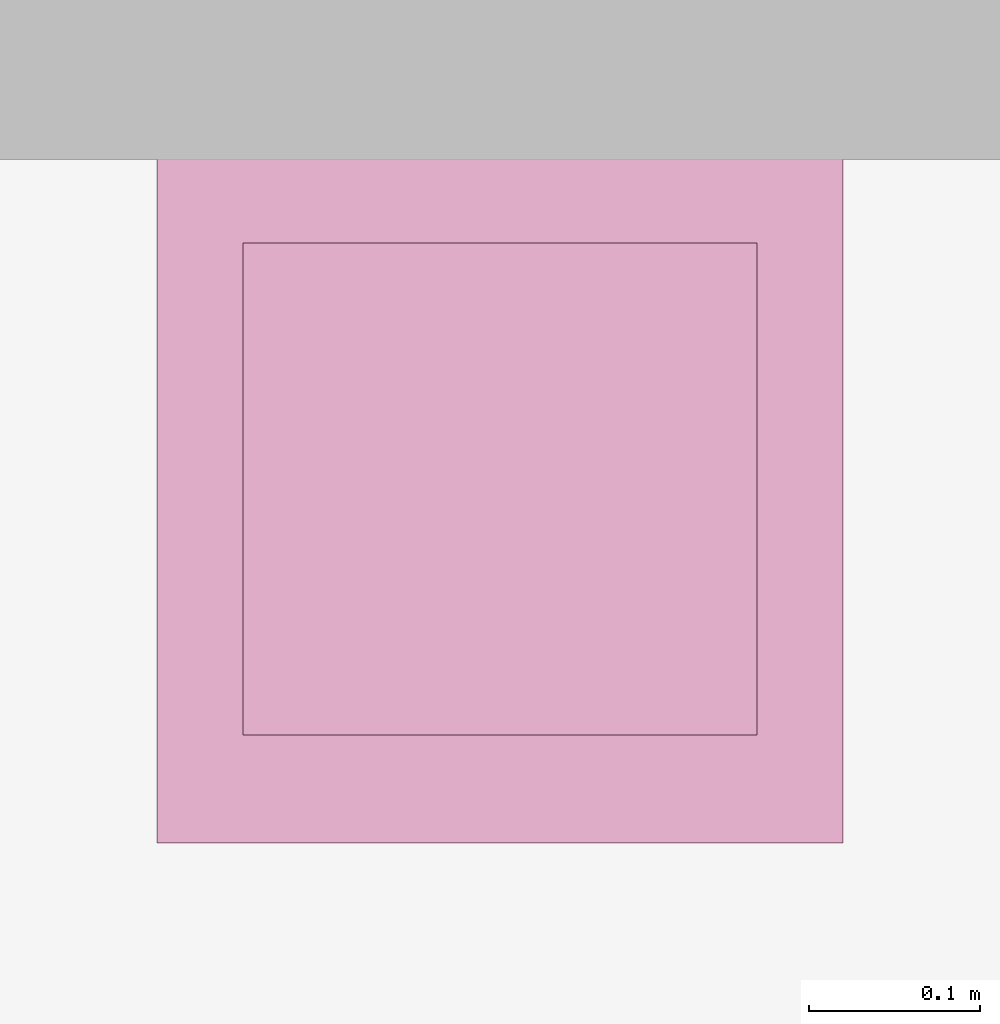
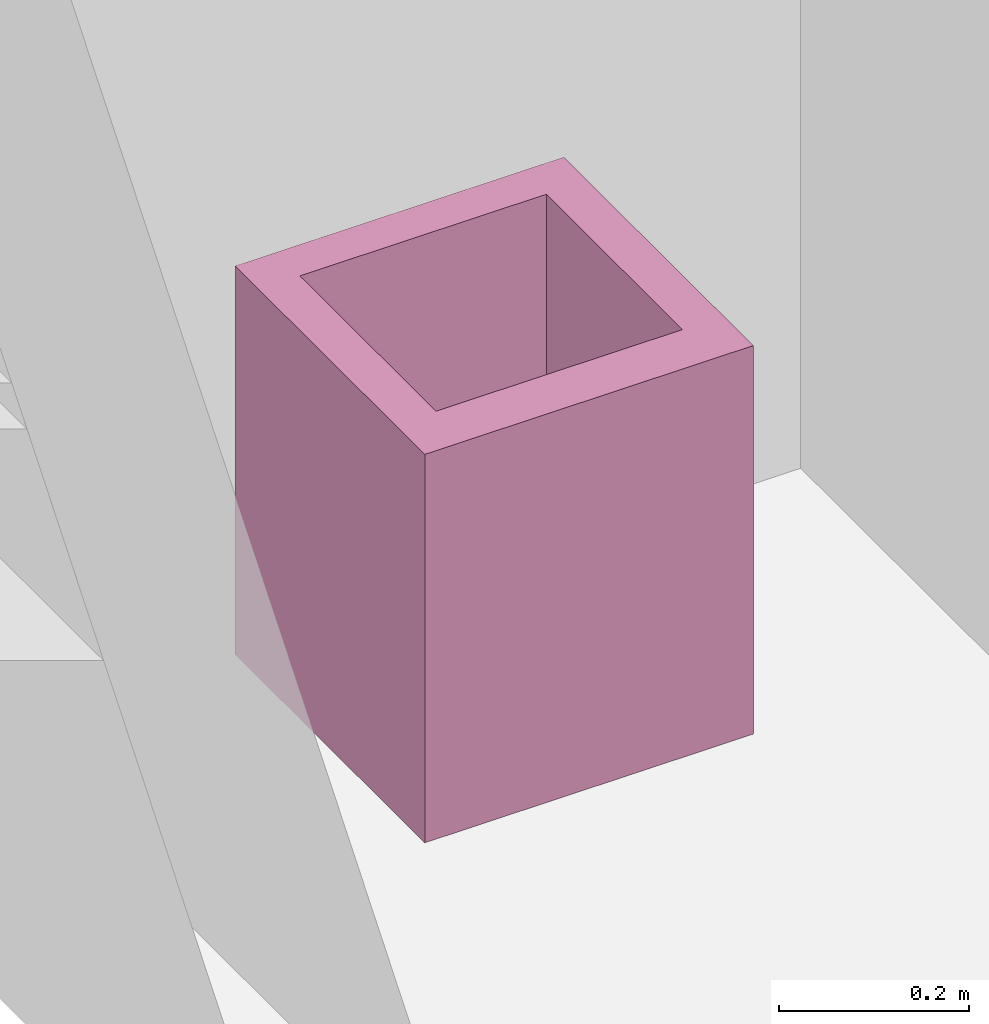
"""IFC4 building model written with IfcOpenShell, lengths in metres."""

import ifcopenshell
import ifcopenshell.guid

model = None  # the IFC model being written
_history = None  # IfcOwnerHistory: only IFC2X3 demands one
_inside = {}  # id of a spatial element -> (the spatial element, [elements in it])
_under = {}  # id of a project, library or spatial element -> (it, [spatial elements below it])
_declared = {}  # id of a project -> (the project, [libraries it declares])
_typed = {}  # id of a type object -> (the type object, [elements of that type])
_made_of = {}  # id of a material, layer set ... -> (it, [elements and type objects made of it])


def new_model(schema):
    """Start an empty IFC model of exactly this schema.

    Asked for "IFC4X3", IfcOpenShell would pick the latest addendum, in which some entities
    have other attributes; the version numbers below select the first issue.
    IFC2X3 requires an IfcOwnerHistory on every rooted entity: one is made here for all.
    """
    global model, _history
    if schema == "IFC4X3":
        model = ifcopenshell.file(schema_version=(4, 3, 0, 0))
    else:
        model = ifcopenshell.file(schema=schema)
    _inside.clear()
    _under.clear()
    _declared.clear()
    _typed.clear()
    _made_of.clear()
    _history = None
    if model.schema == "IFC2X3":
        org = make("IfcOrganization", Name="unknown")
        user = make(
            "IfcPersonAndOrganization",
            ThePerson=make("IfcPerson", FamilyName="unknown"),
            TheOrganization=org,
        )
        app = make(
            "IfcApplication",
            ApplicationDeveloper=org,
            Version="unknown",
            ApplicationFullName="unknown",
            ApplicationIdentifier="unknown",
        )
        _history = make(
            "IfcOwnerHistory",
            OwningUser=user,
            OwningApplication=app,
            ChangeAction="ADDED",
            CreationDate=0,
        )
    return model


def make(cls, **values):
    """One entity of the class cls with the attributes given. An attribute that is None is left unset."""
    return model.create_entity(
        cls, **{name: value for name, value in values.items() if value is not None}
    )


def entity(cls, *values):
    """Any entity or typed value of the class cls, its attributes in the order of the schema. None: left unset."""
    e = model.create_entity(cls)
    for i, value in enumerate(values):
        if value is not None:
            e[i] = value
    return e


def rooted(cls, **values):
    """An entity with a GlobalId (a new one), such as an element, a storey or a relation."""
    return make(cls, GlobalId=ifcopenshell.guid.new(), OwnerHistory=_history, **values)


def si_unit(unit_type, name, prefix=None):
    """IfcSIUnit, for example si_unit("LENGTHUNIT", "METRE", prefix="MILLI")."""
    return make("IfcSIUnit", UnitType=unit_type, Prefix=prefix, Name=name)


def converted_unit(unit_type, name, factor, base, dimensions=None, offset=None):
    """IfcConversionBasedUnit, such as the inch: factor (a typed value) times the base unit."""
    return make(
        "IfcConversionBasedUnit"
        if offset is None
        else "IfcConversionBasedUnitWithOffset",
        ConversionOffset=offset,
        Dimensions=None
        if dimensions is None
        else entity("IfcDimensionalExponents", *dimensions),
        UnitType=unit_type,
        Name=name,
        ConversionFactor=make(
            "IfcMeasureWithUnit", ValueComponent=factor, UnitComponent=base
        ),
    )


def derived_unit(unit_type, elements):
    """IfcDerivedUnit: a product of units, each with its exponent."""
    return make(
        "IfcDerivedUnit",
        Elements=[
            make("IfcDerivedUnitElement", Unit=unit, Exponent=power)
            for unit, power in elements
        ],
        UnitType=unit_type,
    )


def assignment(units):
    """IfcUnitAssignment: the units of a project."""
    return None if units is None else make("IfcUnitAssignment", Units=units)


def point(xyz):
    """IfcCartesianPoint."""
    return None if xyz is None else make("IfcCartesianPoint", Coordinates=xyz)


def direction(xyz):
    """IfcDirection."""
    return None if xyz is None else make("IfcDirection", DirectionRatios=xyz)


def frame(location, z_axis=None, x_axis=None):
    """IfcAxis2Placement3D, a coordinate frame: its origin and axes. An axis left out is left unset."""
    return make(
        "IfcAxis2Placement3D",
        Location=point(location),
        Axis=direction(z_axis),
        RefDirection=direction(x_axis),
    )


def origin():
    """The frame at (0, 0, 0) with its axes left unset."""
    return frame((0.0, 0.0, 0.0))


def place(relative_to, where):
    """IfcLocalPlacement: puts the frame where relative to a parent placement (None: the world)."""
    return make(
        "IfcLocalPlacement", PlacementRelTo=relative_to, RelativePlacement=where
    )


def context(
    kind, dimensions, precision=None, world=None, true_north=None, identifier=None
):
    """IfcGeometricRepresentationContext, for example the 3D "Model" context."""
    return make(
        "IfcGeometricRepresentationContext",
        ContextIdentifier=identifier,
        ContextType=kind,
        CoordinateSpaceDimension=dimensions,
        Precision=precision,
        WorldCoordinateSystem=world,
        TrueNorth=true_north,
    )


def subcontext(parent, identifier, kind, view, scale=None):
    """IfcGeometricRepresentationSubContext, for example "Body" below "Model"."""
    return make(
        "IfcGeometricRepresentationSubContext",
        ContextIdentifier=identifier,
        ContextType=kind,
        ParentContext=parent,
        TargetScale=scale,
        TargetView=view,
    )


def project(units=None, contexts=None):
    """IfcProject with its units and contexts."""
    return rooted(
        "IfcProject",
        Name="project",
        RepresentationContexts=contexts,
        UnitsInContext=assignment(units),
    )


def spatial(cls, under=None, at=None, **own):
    """A site, building, storey or space (cls), placed at a placement, below another one or the project."""
    s = rooted(cls, ObjectPlacement=at, **own)
    if under is not None:
        _under.setdefault(under.id(), (under, []))[1].append(s)
    return s


def faces_of(points, faces, orient=None, outer=None):
    """IfcFace entities. A face is a list of loops; a loop is a list of indices into points, from 0.

    orient and outer hold one flag for each loop. By default every Orientation is true, the
    first loop of a face is its IfcFaceOuterBound and the others are IfcFaceBound.
    """
    made = []
    for i, loops in enumerate(faces):
        bounds = []
        for j, loop in enumerate(loops):
            is_outer = j == 0 if outer is None else outer[i][j]
            bounds.append(
                make(
                    "IfcFaceOuterBound" if is_outer else "IfcFaceBound",
                    Bound=make("IfcPolyLoop", Polygon=[points[k] for k in loop]),
                    Orientation=True if orient is None else orient[i][j],
                )
            )
        made.append(make("IfcFace", Bounds=bounds))
    return made


def faceted_brep(points, faces, orient=None, outer=None, voids=None):
    """IfcFacetedBrep: a solid bounded by flat faces; with voids (closed shells), ...WithVoids."""
    shared = [point(p) for p in points]
    hull = make("IfcClosedShell", CfsFaces=faces_of(shared, faces, orient, outer))
    if voids is None:
        return make("IfcFacetedBrep", Outer=hull)
    return make(
        "IfcFacetedBrepWithVoids",
        Outer=hull,
        Voids=[
            make(cls, CfsFaces=faces_of(shared, fs, o, b)) for cls, fs, o, b in voids
        ],
    )


def shape(context_of_items, identifier, shape_type, items):
    """IfcShapeRepresentation: the items that make up one representation, for example the "Body"."""
    return make(
        "IfcShapeRepresentation",
        ContextOfItems=context_of_items,
        RepresentationIdentifier=identifier,
        RepresentationType=shape_type,
        Items=items,
    )


def made_of(thing, what):
    """Note that an element or type object is made of a material, layer set ...; save() writes the relation."""
    if what is not None:
        _made_of.setdefault(what.id(), (what, []))[1].append(thing)
    return thing


def element(
    cls,
    number,
    at=None,
    inside=None,
    cuts=None,
    type_object=None,
    material=None,
    context=None,
    identifier="Body",
    shape_type=None,
    held_by="IfcProductDefinitionShape",
    body=None,
    shapes=None,
    **own,
):
    """One element of the class cls, such as IfcWall. Its Tag is "e" and its number.

    at: its placement. inside: the storey or other place that contains it. cuts: it is an
    opening in that element (IfcRelVoidsElement). A single representation is given by context,
    identifier, shape_type and body (its items); several are given by shapes. held_by: the class
    of the entity that holds the representations. save() writes the other relations.
    """
    e = rooted(cls, Tag="e%d" % number, ObjectPlacement=at, **own)
    if body is not None:
        shapes = [shape(context, identifier, shape_type, body)]
    if shapes is not None:
        e.Representation = make(held_by, Representations=shapes)
    if inside is not None:
        _inside.setdefault(inside.id(), (inside, []))[1].append(e)
    if cuts is not None:
        rooted(
            "IfcRelVoidsElement", RelatingBuildingElement=cuts, RelatedOpeningElement=e
        )
    if type_object is not None:
        _typed.setdefault(type_object.id(), (type_object, []))[1].append(e)
    return made_of(e, material)


def aggregate(whole, parts):
    """IfcRelAggregates: a whole, such as a stair, and the parts it consists of."""
    return rooted("IfcRelAggregates", RelatingObject=whole, RelatedObjects=parts)


def save(model, path):
    """Write the relations noted so far, then the file.

    IfcRelAggregates (storeys below a building ...), IfcRelContainedInSpatialStructure (elements
    in a storey), IfcRelDefinesByType, IfcRelAssociatesMaterial and IfcRelDeclares: one each for
    every whole, place, type object, material and project.
    """
    for whole, parts in _under.values():
        aggregate(whole, parts)
    for where, things in _inside.values():
        rooted(
            "IfcRelContainedInSpatialStructure",
            RelatedElements=things,
            RelatingStructure=where,
        )
    for kind, things in _typed.values():
        rooted("IfcRelDefinesByType", RelatedObjects=things, RelatingType=kind)
    for what, things in _made_of.values():
        rooted("IfcRelAssociatesMaterial", RelatedObjects=things, RelatingMaterial=what)
    for by, libraries in _declared.values():
        rooted("IfcRelDeclares", RelatingContext=by, RelatedDefinitions=libraries)
    model.write(path)


model = new_model("IFC4")

# Units and contexts
model_context = context("Model", 3, precision=1e-05, world=origin())
body_context = subcontext(model_context, "Body", "Model", "MODEL_VIEW")
ifc_project = project(units=[si_unit("LENGTHUNIT", "METRE"), si_unit("AREAUNIT", "SQUARE_METRE"), si_unit("VOLUMEUNIT", "CUBIC_METRE"), si_unit("MASSUNIT", "GRAM", prefix="KILO"), converted_unit("PLANEANGLEUNIT", "DEGREE", entity("IfcPlaneAngleMeasure", 0.0174532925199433), si_unit("PLANEANGLEUNIT", "RADIAN"), dimensions=[0, 0, 0, 0, 0, 0, 0]), derived_unit("THERMALTRANSMITTANCEUNIT", [(si_unit("POWERUNIT", "WATT"), 1), (si_unit("THERMODYNAMICTEMPERATUREUNIT", "KELVIN"), -1), (si_unit("LENGTHUNIT", "METRE"), -2)]), derived_unit("VOLUMETRICFLOWRATEUNIT", [(si_unit("LENGTHUNIT", "METRE"), 3), (converted_unit("TIMEUNIT", "hour", entity("IfcTimeMeasure", 3600.0), si_unit("TIMEUNIT", "SECOND"), dimensions=[0, 0, 1, 0, 0, 0, 0]), -1), (si_unit("LENGTHUNIT", "METRE"), -1)])], contexts=[model_context])

# Building, storeys
building_placement = place(None, origin())
building = spatial("IfcBuilding", under=ifc_project, at=building_placement, Name="HABITATGE PLURIFAMILIAR", CompositionType="ELEMENT")
storey_1_placement = place(building_placement, frame((0.0, 0.0, 15.28)))
storey_1 = spatial("IfcBuildingStorey", under=building, at=storey_1_placement, Name="PLANTA QUARTA", CompositionType="ELEMENT", Elevation=15.28)
storey_2_placement = place(storey_1_placement, frame((0.0, 0.0, 12.27)))
storey_2 = spatial("IfcBuildingStorey", under=storey_1, at=storey_2_placement, Name="NOU", CompositionType="PARTIAL")

# Furniture
furniture_placement = place(storey_2_placement, frame((416.236937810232, 27.300783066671, -12.27)))
element("IfcFurniture", 1, at=furniture_placement, inside=storey_2, Name="Abocador P4", context=body_context, shape_type="Brep", body=[
    faceted_brep([(0.05, 0.0628648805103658, 0.5), (0.05, 0.35, 0.5), (0.05, 0.35, 0.2), (0.05, 0.0628648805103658, 0.2), (0.35, 0.0628648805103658, 0.5), (0.35, 0.0628648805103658, 0.2), (0.35, 0.35, 0.5), (0.35, 0.35, 0.2), (0.4, 0.4, 0.0), (0.0, 0.4, 0.0), (0.0, 0.0, 0.0), (0.4, 0.0, 0.0), (0.4, 0.4, 0.5), (0.0, 0.4, 0.5), (0.4, 0.0, 0.5), (0.0, 0.0, 0.5)], [[[0, 1, 2, 3]], [[4, 0, 3, 5]], [[1, 6, 7, 2]], [[7, 5, 3, 2]], [[6, 4, 5, 7]], [[8, 9, 10, 11]], [[9, 8, 12, 13]], [[8, 11, 14, 12]], [[11, 10, 15, 14]], [[10, 9, 13, 15]], [[13, 12, 14, 15], [1, 0, 4, 6]]], orient=[[False], [False], [False], [False], [False], [False], [False], [False], [False], [False], [False, False]]),
])

save(model, "model.ifc")
